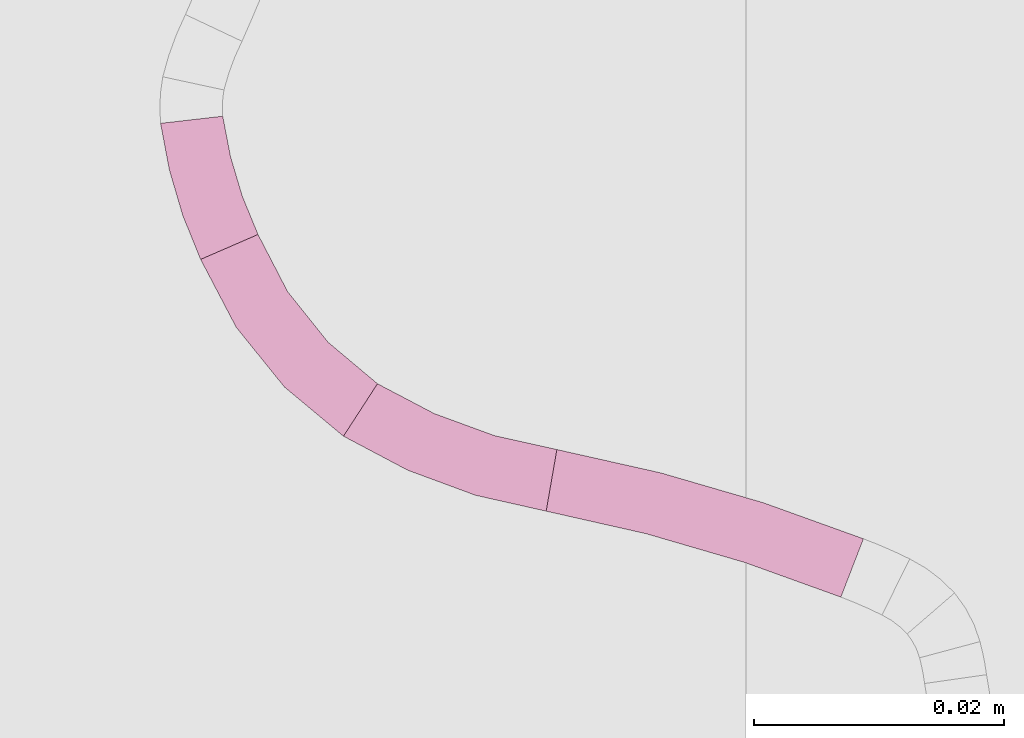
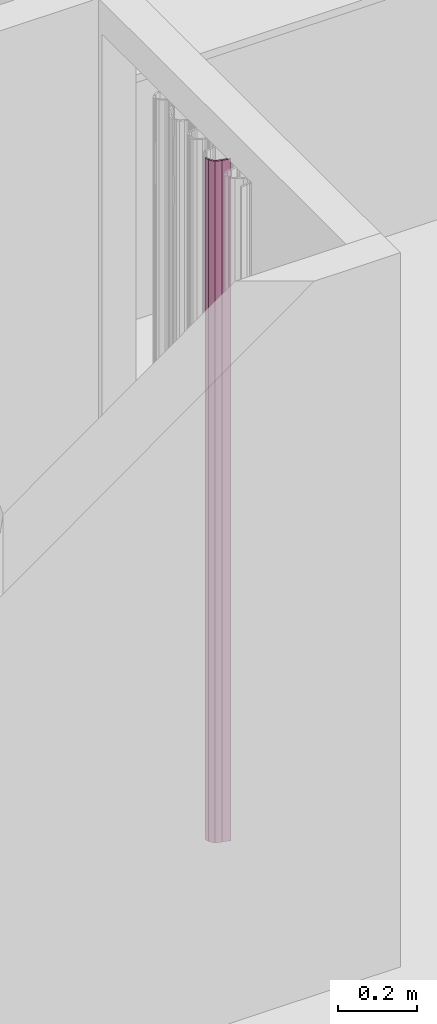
# One storey, part 299 of 418: 4 furnishings.
"""IFC2X3 building model written with IfcOpenShell, lengths in millimetres."""

from ifc_helpers import new_model, entity, si_unit, converted_unit, derived_unit, money_unit, point, direction, frame, frame_2d, origin_with_axes, place, context, subcontext, project, spatial, polyline, circle_curve, parameter, trimmed, segment, composite_curve, outline, extrude, material, type_object, element, save


model = new_model("IFC2X3")

# Units and contexts
model_context = context("Model", 3, precision=0.01, world=origin_with_axes(), true_north=direction((0.0, 1.0)))
body_context = subcontext(model_context, "Body", "Model", "MODEL_VIEW")
ifc_project = project(units=[si_unit("LENGTHUNIT", "METRE", prefix="MILLI"), si_unit("AREAUNIT", "SQUARE_METRE"), si_unit("VOLUMEUNIT", "CUBIC_METRE"), converted_unit("PLANEANGLEUNIT", "DEGREE", entity("IfcPlaneAngleMeasure", 0.0174532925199), si_unit("PLANEANGLEUNIT", "RADIAN"), dimensions=[0, 0, 0, 0, 0, 0, 0]), si_unit("SOLIDANGLEUNIT", "STERADIAN"), money_unit("EUR"), converted_unit("TIMEUNIT", "Year", entity("IfcTimeMeasure", 31556926.0), si_unit("TIMEUNIT", "SECOND"), dimensions=[0, 0, 1, 0, 0, 0, 0]), si_unit("MASSUNIT", "GRAM", prefix="KILO"), si_unit("THERMODYNAMICTEMPERATUREUNIT", "DEGREE_CELSIUS"), si_unit("LUMINOUSINTENSITYUNIT", "LUMEN"), si_unit("ENERGYUNIT", "JOULE", prefix="MEGA"), derived_unit("THERMALCONDUCTANCEUNIT", [(si_unit("POWERUNIT", "WATT"), 1), (si_unit("LENGTHUNIT", "METRE"), -1), (si_unit("THERMODYNAMICTEMPERATUREUNIT", "KELVIN"), -1)]), derived_unit("SPECIFICHEATCAPACITYUNIT", [(si_unit("ENERGYUNIT", "JOULE"), 1), (si_unit("MASSUNIT", "GRAM", prefix="KILO"), -1), (si_unit("THERMODYNAMICTEMPERATUREUNIT", "KELVIN"), -1)]), derived_unit("MASSDENSITYUNIT", [(si_unit("MASSUNIT", "GRAM", prefix="KILO"), 1), (si_unit("VOLUMEUNIT", "CUBIC_METRE"), -1)])], contexts=[model_context])

# Site, building, storey
site_placement = place(None, origin_with_axes())
site = spatial("IfcSite", under=ifc_project, at=site_placement, Name="Paldiski mnt 245/1, Tallinn, Harjumaa", CompositionType="COMPLEX")
building_placement = place(site_placement, origin_with_axes())
building = spatial("IfcBuilding", under=site, at=building_placement, Name="RKAS Hoone üldnimetus (kasutust iseloomustav) -> IFC Project Manager -> SOLIBRI", CompositionType="ELEMENT")
storey_placement = place(building_placement, origin_with_axes())
storey = spatial("IfcBuildingStorey", under=building, at=storey_placement, Name="Esimene korrus", CompositionType="ELEMENT", Elevation=0.0)

# Furnishings
ifc_material = material(Name="KON-00_GENEERILINE - KONSTRUKTSIOON")
furniture_type = type_object("IfcFurnitureType", Name="KON-00_GENEERILINE - KONSTRUKTSIOON 5", AssemblyPlace="NOTDEFINED")
furnishing_1_placement = place(storey_placement, frame((-44014.8017457, -2216.40078109, 0.0), z_axis=(0.0, 0.0, 1.0), x_axis=(-0.929858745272, 0.367916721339, 0.0)))
element("IfcFurnishingElement", 1, at=furnishing_1_placement, inside=storey, type_object=furniture_type, material=ifc_material, Name="SS-42", context=body_context, shape_type="SweptSolid", body=[
    extrude(outline(composite_curve([segment(trimmed(circle_curve(frame_2d((0.0, 132.054534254), x_axis=(0.000297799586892, -0.999999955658)), 137.054534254), [point((0.0408147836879, -4.99999392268)), parameter(0.0)], [point((25.4487560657, -2.61656945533)), parameter(10.6839178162)], True, "CARTESIAN"), True, "CONTINUOUS"), segment(polyline([(25.4487560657, -2.61656945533), (24.4323367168, 2.27987979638)]), True, "CONTINUOUS"), segment(trimmed(circle_curve(frame_2d((0.0, 132.054534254), x_axis=(0.0, -1.0)), 132.054534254), [point((24.4323367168, 2.27987979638)), parameter(10.6621248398)], [point((-1.56319401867e-10, 0.0)), parameter(0.0)], False, "CARTESIAN"), True, "CONTINUOUS"), segment(polyline([(-1.56319401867e-10, 0.0), (0.0408147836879, -4.99999392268)]), True, "CONTINUOUS")], self_intersect=False)), origin_with_axes(), (0.0, 0.0, 1.0), 2100.0),
])
furnishing_2_placement = place(storey_placement, frame((-44054.5627587, -2203.54097857, 0.0), z_axis=(0.0, 0.0, 1.0), x_axis=(0.850777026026, -0.525526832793, 0.0)))
element("IfcFurnishingElement", 2, at=furnishing_2_placement, inside=storey, type_object=furniture_type, material=ifc_material, Name="SS-41", context=body_context, shape_type="SweptSolid", body=[
    extrude(outline(composite_curve([segment(trimmed(circle_curve(frame_2d((0.0, 43.6492931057), x_axis=(0.0, -1.0)), 43.6492931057), [point((0.0, 0.0)), parameter(0.0)], [point((16.9339133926, 3.41866589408)), parameter(22.8272447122)], True, "CARTESIAN"), True, "CONTINUOUS"), segment(polyline([(16.9339133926, 3.41866589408), (15.0732323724, 8.06045323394)]), True, "CONTINUOUS"), segment(trimmed(circle_curve(frame_2d((0.0, 43.6492931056), x_axis=(0.00281394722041, -0.999996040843)), 38.6492931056), [point((15.0732323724, 8.06045323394)), parameter(22.7932848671)], [point((0.108757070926, 5.00015301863)), parameter(0.0)], False, "CARTESIAN"), True, "CONTINUOUS"), segment(polyline([(0.108757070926, 5.00015301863), (0.0, 0.0)]), True, "CONTINUOUS")], self_intersect=False)), origin_with_axes(), (0.0, 0.0, 1.0), 2100.0),
])
furnishing_3_placement = place(storey_placement, frame((-44065.9791492, -2189.40799017, 0.0), z_axis=(0.0, 0.0, 1.0), x_axis=(0.375006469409, -0.927022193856, 0.0)))
element("IfcFurnishingElement", 3, at=furnishing_3_placement, inside=storey, type_object=furniture_type, material=ifc_material, Name="SS-40", context=body_context, shape_type="SweptSolid", body=[
    extrude(outline(composite_curve([segment(trimmed(circle_curve(frame_2d((0.0, 31.2376972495), x_axis=(0.0, -1.0)), 31.2376972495), [point((0.0, 0.0)), parameter(0.0)], [point((17.3828142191, 5.28328530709)), parameter(33.8119645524)], True, "CARTESIAN"), True, "CONTINUOUS"), segment(polyline([(17.3828142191, 5.28328530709), (14.5123399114, 9.37886042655)]), True, "CONTINUOUS"), segment(trimmed(circle_curve(frame_2d((0.0, 31.2376972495), x_axis=(-0.00485522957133, -0.999988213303)), 26.2376972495), [point((14.5123399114, 9.37886042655)), parameter(33.8588387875)], [point((-0.127390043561, 5.00030925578)), parameter(0.0)], False, "CARTESIAN"), True, "CONTINUOUS"), segment(polyline([(-0.127390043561, 5.00030925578), (0.0, 0.0)]), True, "CONTINUOUS")], self_intersect=False)), origin_with_axes(), (0.0, 0.0, 1.0), 2100.0),
])
furnishing_4_placement = place(storey_placement, frame((-44069.1801146, -2178.53136148, 0.0), z_axis=(0.0, 0.0, 1.0), x_axis=(0.13623273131, -0.990676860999, 0.0)))
element("IfcFurnishingElement", 4, at=furnishing_4_placement, inside=storey, type_object=furniture_type, material=ifc_material, Name="SS-39", context=body_context, shape_type="SweptSolid", body=[
    extrude(outline(composite_curve([segment(trimmed(circle_curve(frame_2d((0.0, 38.0459187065), x_axis=(0.0, -1.0)), 38.0459187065), [point((-1.75415237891e-10, 0.0)), parameter(0.0)], [point((11.2113006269, 1.68936952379)), parameter(17.1382383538)], True, "CARTESIAN"), True, "CONTINUOUS"), segment(polyline([(11.2113006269, 1.68936952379), (9.86162693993, 6.50576878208)]), True, "CONTINUOUS"), segment(trimmed(circle_curve(frame_2d((0.0, 38.0459187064), x_axis=(0.00335380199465, -0.99999437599)), 33.0459187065), [point((9.86162693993, 6.50576878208)), parameter(17.1706863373)], [point((0.110829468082, 5.00018585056)), parameter(0.0)], False, "CARTESIAN"), True, "CONTINUOUS"), segment(polyline([(0.110829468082, 5.00018585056), (-1.75415237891e-10, 0.0)]), True, "CONTINUOUS")], self_intersect=False)), origin_with_axes(), (0.0, 0.0, 1.0), 2100.0),
])

save(model, "model.ifc")
